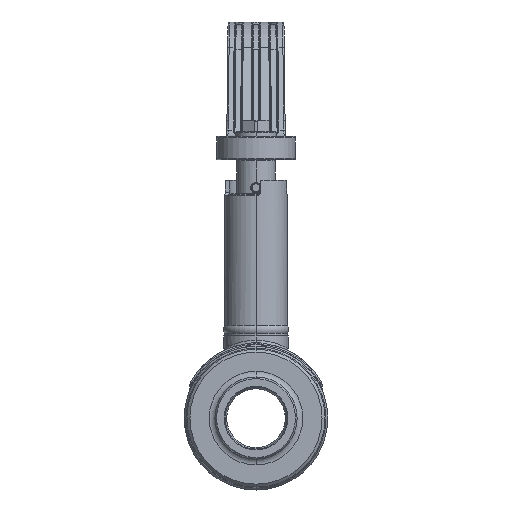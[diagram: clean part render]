
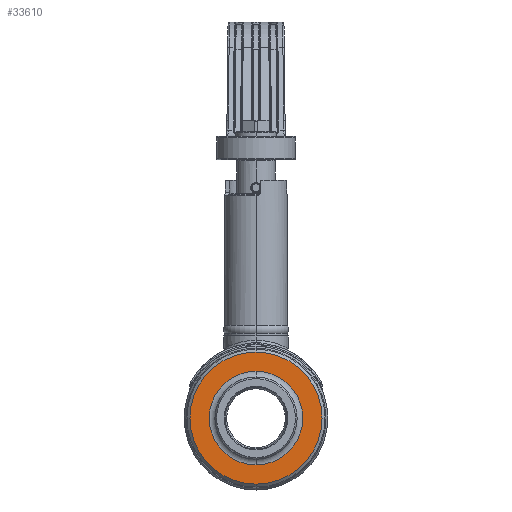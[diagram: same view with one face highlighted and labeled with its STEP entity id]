
A CAD part, left-side view. The second image highlights one B-rep face of the part: STEP entity #33610.
In plain terms, the highlighted planar face has unit normal (-1, 0, 0).
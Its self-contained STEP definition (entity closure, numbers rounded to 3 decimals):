
#11183=CARTESIAN_POINT('',(-35.,0.,0.));
#11184=DIRECTION('',(-1.,0.,0.));
#11185=DIRECTION('',(0.,0.,1.));
#11186=AXIS2_PLACEMENT_3D('',#11183,#11184,#11185);
#11188=CARTESIAN_POINT('',(-35.,0.,0.));
#11189=DIRECTION('',(1.,0.,0.));
#11190=DIRECTION('',(0.,0.,1.));
#11191=AXIS2_PLACEMENT_3D('',#11188,#11189,#11190);
#11193=CARTESIAN_POINT('',(-35.,0.,0.));
#11194=DIRECTION('',(1.,0.,0.));
#11195=DIRECTION('',(0.,0.,-1.));
#11196=AXIS2_PLACEMENT_3D('',#11193,#11194,#11195);
#11198=CARTESIAN_POINT('',(-35.,0.,0.));
#11199=DIRECTION('',(1.,0.,0.));
#11200=DIRECTION('',(0.,0.,1.));
#11201=AXIS2_PLACEMENT_3D('',#11198,#11199,#11200);
#13458=CARTESIAN_POINT('',(-35.,0.,15.95));
#13459=VERTEX_POINT('',#13458);
#13460=CARTESIAN_POINT('',(-35.,0.,-15.95));
#13461=VERTEX_POINT('',#13460);
#13474=CARTESIAN_POINT('',(-35.,0.,-22.5));
#13475=CARTESIAN_POINT('',(-35.,0.,22.5));
#13476=VERTEX_POINT('',#13474);
#13477=VERTEX_POINT('',#13475);
#33595=CARTESIAN_POINT('',(-35.,0.,0.));
#33596=DIRECTION('',(1.,0.,0.));
#33597=DIRECTION('',(0.,0.,1.));
#33598=AXIS2_PLACEMENT_3D('',#33595,#33596,#33597);
#33599=PLANE('',#33598);
#33601=ORIENTED_EDGE('',*,*,#33600,.T.);
#33603=ORIENTED_EDGE('',*,*,#33602,.T.);
#33604=EDGE_LOOP('',(#33601,#33603));
#33605=FACE_OUTER_BOUND('',#33604,.F.);
#33606=ORIENTED_EDGE('',*,*,#33577,.T.);
#33607=ORIENTED_EDGE('',*,*,#33588,.F.);
#33608=EDGE_LOOP('',(#33606,#33607));
#33609=FACE_BOUND('',#33608,.F.);
#11187=CIRCLE('',#11186,15.95);
#11192=CIRCLE('',#11191,15.95);
#11197=CIRCLE('',#11196,22.5);
#11202=CIRCLE('',#11201,22.5);
#33577=EDGE_CURVE('',#13459,#13461,#11187,.T.);
#33588=EDGE_CURVE('',#13459,#13461,#11192,.T.);
#33600=EDGE_CURVE('',#13476,#13477,#11197,.T.);
#33602=EDGE_CURVE('',#13477,#13476,#11202,.T.);
#33610=ADVANCED_FACE('',(#33605,#33609),#33599,.F.);
